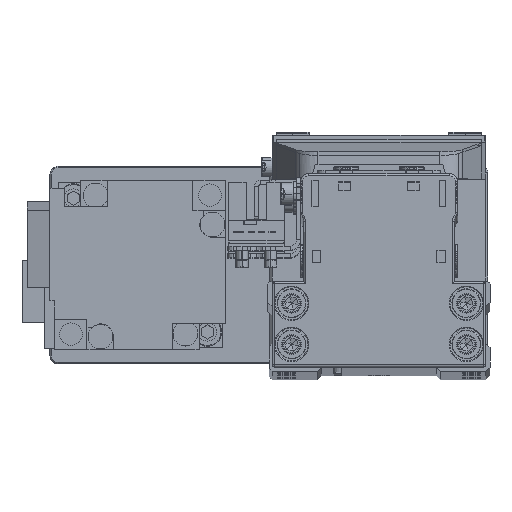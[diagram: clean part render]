
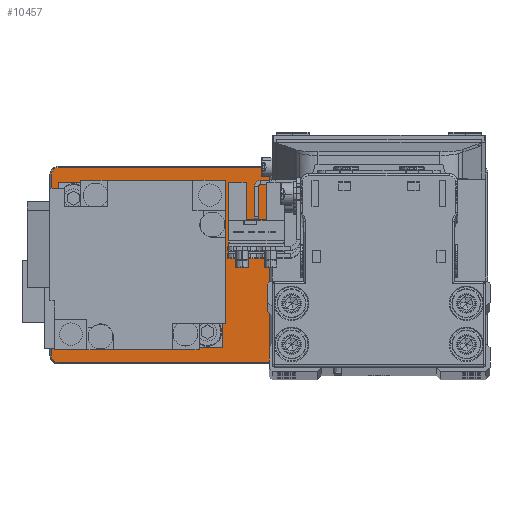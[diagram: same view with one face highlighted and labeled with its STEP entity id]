
A CAD part, top view. The second image highlights one B-rep face of the part: STEP entity #10457.
In plain terms, the highlighted planar face has unit normal (0, 0, 1).
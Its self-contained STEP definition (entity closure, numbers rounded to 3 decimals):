
#195 = VERTEX_POINT ( 'NONE', #35582 ) ;
#217 = ORIENTED_EDGE ( 'NONE', *, *, #22863, .T. ) ;
#573 = DIRECTION ( 'NONE',  ( 0., 0., 1. ) ) ;
#635 = DIRECTION ( 'NONE',  ( 0., 0., -1. ) ) ;
#1273 = DIRECTION ( 'NONE',  ( 1., 0., 0. ) ) ;
#1721 = DIRECTION ( 'NONE',  ( 0., 0., 1. ) ) ;
#1723 = CARTESIAN_POINT ( 'NONE',  ( -50., 23.7, 5. ) ) ;
#2704 = EDGE_CURVE ( 'NONE', #10129, #21727, #38840, .T. ) ;
#2740 = CIRCLE ( 'NONE', #25948, 12.8 ) ;
#2769 = DIRECTION ( 'NONE',  ( 0., 0., 1. ) ) ;
#3697 = FACE_OUTER_BOUND ( 'NONE', #30806, .T. ) ;
#4965 = CARTESIAN_POINT ( 'NONE',  ( 17.2, 0., 5. ) ) ;
#6439 = VECTOR ( 'NONE', #1273, 1000. ) ;
#7880 = DIRECTION ( 'NONE',  ( 1., 0., 0. ) ) ;
#8474 = AXIS2_PLACEMENT_3D ( 'NONE', #29085, #635, #13315 ) ;
#8731 = CIRCLE ( 'NONE', #14039, 1.7 ) ;
#9329 = DIRECTION ( 'NONE',  ( 0., 1., 0. ) ) ;
#9334 = AXIS2_PLACEMENT_3D ( 'NONE', #25728, #38386, #9933 ) ;
#9933 = DIRECTION ( 'NONE',  ( 1., 0., 0. ) ) ;
#9956 = DIRECTION ( 'NONE',  ( 0., 0., -1. ) ) ;
#9979 = CARTESIAN_POINT ( 'NONE',  ( 50., -23.7, 5. ) ) ;
#10129 = VERTEX_POINT ( 'NONE', #20159 ) ;
#10146 = VERTEX_POINT ( 'NONE', #36118 ) ;
#10253 = DIRECTION ( 'NONE',  ( 0., -1., 0. ) ) ;
#10457 = ADVANCED_FACE ( 'NONE', ( #19491, #32124, #3697 ), #16373, .T. ) ;
#10815 = VERTEX_POINT ( 'NONE', #32446 ) ;
#11578 = DIRECTION ( 'NONE',  ( 0., 0., -1. ) ) ;
#11689 = DIRECTION ( 'NONE',  ( 1., 0., 0. ) ) ;
#13183 = ORIENTED_EDGE ( 'NONE', *, *, #29153, .T. ) ;
#13253 = DIRECTION ( 'NONE',  ( 1., 0., 0. ) ) ;
#13315 = DIRECTION ( 'NONE',  ( 1., 0., 0. ) ) ;
#14039 = AXIS2_PLACEMENT_3D ( 'NONE', #30169, #1721, #14401 ) ;
#14401 = DIRECTION ( 'NONE',  ( 1., 0., 0. ) ) ;
#14405 = DIRECTION ( 'NONE',  ( -1., 0., 0. ) ) ;
#14978 = EDGE_LOOP ( 'NONE', ( #13183, #30692 ) ) ;
#15093 = EDGE_CURVE ( 'NONE', #10146, #195, #8731, .T. ) ;
#15189 = CIRCLE ( 'NONE', #38374, 12.8 ) ;
#15446 = DIRECTION ( 'NONE',  ( 1., 0., 0. ) ) ;
#16373 = PLANE ( 'NONE',  #41012 ) ;
#17071 = LINE ( 'NONE', #29720, #6439 ) ;
#17474 = ORIENTED_EDGE ( 'NONE', *, *, #23929, .T. ) ;
#17855 = EDGE_LOOP ( 'NONE', ( #31489, #30223 ) ) ;
#18178 = EDGE_CURVE ( 'NONE', #23395, #26223, #26385, .T. ) ;
#19239 = EDGE_CURVE ( 'NONE', #23457, #34340, #15189, .T. ) ;
#19491 = FACE_BOUND ( 'NONE', #14978, .T. ) ;
#19998 = CARTESIAN_POINT ( 'NONE',  ( -17.7, 0., 5. ) ) ;
#20159 = CARTESIAN_POINT ( 'NONE',  ( -50., 23.7, 5. ) ) ;
#20963 = AXIS2_PLACEMENT_3D ( 'NONE', #23663, #36315, #7880 ) ;
#21377 = EDGE_CURVE ( 'NONE', #195, #10129, #30171, .T. ) ;
#21704 = AXIS2_PLACEMENT_3D ( 'NONE', #31199, #2769, #15446 ) ;
#21727 = VERTEX_POINT ( 'NONE', #38842 ) ;
#22298 = ORIENTED_EDGE ( 'NONE', *, *, #39702, .T. ) ;
#22636 = DIRECTION ( 'NONE',  ( 1., 0., 0. ) ) ;
#22863 = EDGE_CURVE ( 'NONE', #10815, #37032, #17071, .T. ) ;
#23030 = ORIENTED_EDGE ( 'NONE', *, *, #21377, .T. ) ;
#23395 = VERTEX_POINT ( 'NONE', #36301 ) ;
#23457 = VERTEX_POINT ( 'NONE', #4965 ) ;
#23511 = ORIENTED_EDGE ( 'NONE', *, *, #2704, .T. ) ;
#23663 = CARTESIAN_POINT ( 'NONE',  ( -50., 22., 5. ) ) ;
#23929 = EDGE_CURVE ( 'NONE', #33501, #10815, #39594, .T. ) ;
#24105 = CARTESIAN_POINT ( 'NONE',  ( 42.8, 0., 5. ) ) ;
#24241 = DIRECTION ( 'NONE',  ( 1., 0., 0. ) ) ;
#25122 = LINE ( 'NONE', #37783, #29212 ) ;
#25728 = CARTESIAN_POINT ( 'NONE',  ( 50., -22., 5. ) ) ;
#25948 = AXIS2_PLACEMENT_3D ( 'NONE', #38414, #9956, #22636 ) ;
#26060 = LINE ( 'NONE', #38709, #32260 ) ;
#26223 = VERTEX_POINT ( 'NONE', #19998 ) ;
#26385 = CIRCLE ( 'NONE', #8474, 10.3 ) ;
#26917 = CARTESIAN_POINT ( 'NONE',  ( 30., 0., 5. ) ) ;
#27240 = CIRCLE ( 'NONE', #32498, 10.3 ) ;
#27271 = CIRCLE ( 'NONE', #9334, 1.7 ) ;
#28834 = ORIENTED_EDGE ( 'NONE', *, *, #32741, .T. ) ;
#29021 = CARTESIAN_POINT ( 'NONE',  ( 0., 0., 5. ) ) ;
#29085 = CARTESIAN_POINT ( 'NONE',  ( -28., 0., 5. ) ) ;
#29153 = EDGE_CURVE ( 'NONE', #34340, #23457, #2740, .T. ) ;
#29212 = VECTOR ( 'NONE', #9329, 1000. ) ;
#29720 = CARTESIAN_POINT ( 'NONE',  ( 50., -23.7, 5. ) ) ;
#30169 = CARTESIAN_POINT ( 'NONE',  ( 50., 22., 5. ) ) ;
#30171 = LINE ( 'NONE', #1723, #37509 ) ;
#30223 = ORIENTED_EDGE ( 'NONE', *, *, #18178, .T. ) ;
#30692 = ORIENTED_EDGE ( 'NONE', *, *, #19239, .T. ) ;
#30806 = EDGE_LOOP ( 'NONE', ( #217, #28834, #32799, #39638, #23030, #23511, #22298, #17474 ) ) ;
#31199 = CARTESIAN_POINT ( 'NONE',  ( -50., -22., 5. ) ) ;
#31489 = ORIENTED_EDGE ( 'NONE', *, *, #32259, .T. ) ;
#32124 = FACE_BOUND ( 'NONE', #17855, .T. ) ;
#32259 = EDGE_CURVE ( 'NONE', #26223, #23395, #27240, .T. ) ;
#32260 = VECTOR ( 'NONE', #10253, 1000. ) ;
#32446 = CARTESIAN_POINT ( 'NONE',  ( -50., -23.7, 5. ) ) ;
#32498 = AXIS2_PLACEMENT_3D ( 'NONE', #40037, #11578, #24241 ) ;
#32690 = EDGE_CURVE ( 'NONE', #32774, #10146, #25122, .T. ) ;
#32741 = EDGE_CURVE ( 'NONE', #37032, #32774, #27271, .T. ) ;
#32774 = VERTEX_POINT ( 'NONE', #38583 ) ;
#32799 = ORIENTED_EDGE ( 'NONE', *, *, #32690, .T. ) ;
#33501 = VERTEX_POINT ( 'NONE', #34358 ) ;
#34340 = VERTEX_POINT ( 'NONE', #24105 ) ;
#34358 = CARTESIAN_POINT ( 'NONE',  ( -51.7, -22., 5. ) ) ;
#35582 = CARTESIAN_POINT ( 'NONE',  ( 50., 23.7, 5. ) ) ;
#36118 = CARTESIAN_POINT ( 'NONE',  ( 51.7, 22., 5. ) ) ;
#36301 = CARTESIAN_POINT ( 'NONE',  ( -38.3, 0., 5. ) ) ;
#36315 = DIRECTION ( 'NONE',  ( 0., 0., 1. ) ) ;
#37032 = VERTEX_POINT ( 'NONE', #9979 ) ;
#37509 = VECTOR ( 'NONE', #14405, 1000. ) ;
#37783 = CARTESIAN_POINT ( 'NONE',  ( 51.7, 22., 5. ) ) ;
#38374 = AXIS2_PLACEMENT_3D ( 'NONE', #26917, #40157, #11689 ) ;
#38386 = DIRECTION ( 'NONE',  ( 0., 0., 1. ) ) ;
#38414 = CARTESIAN_POINT ( 'NONE',  ( 30., 0., 5. ) ) ;
#38583 = CARTESIAN_POINT ( 'NONE',  ( 51.7, -22., 5. ) ) ;
#38709 = CARTESIAN_POINT ( 'NONE',  ( -51.7, -22., 5. ) ) ;
#38840 = CIRCLE ( 'NONE', #20963, 1.7 ) ;
#38842 = CARTESIAN_POINT ( 'NONE',  ( -51.7, 22., 5. ) ) ;
#39594 = CIRCLE ( 'NONE', #21704, 1.7 ) ;
#39638 = ORIENTED_EDGE ( 'NONE', *, *, #15093, .T. ) ;
#39702 = EDGE_CURVE ( 'NONE', #21727, #33501, #26060, .T. ) ;
#40037 = CARTESIAN_POINT ( 'NONE',  ( -28., 0., 5. ) ) ;
#40157 = DIRECTION ( 'NONE',  ( 0., 0., -1. ) ) ;
#41012 = AXIS2_PLACEMENT_3D ( 'NONE', #29021, #573, #13253 ) ;
